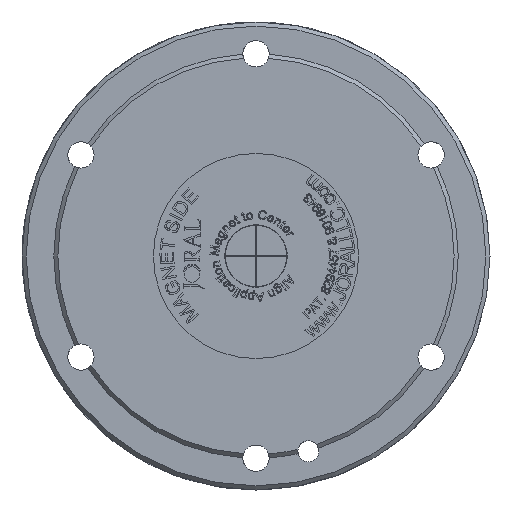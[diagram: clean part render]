
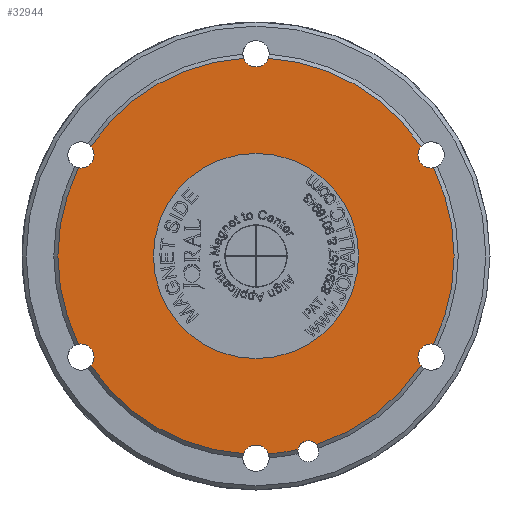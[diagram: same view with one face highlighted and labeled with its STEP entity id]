
A CAD part, left-side view. The second image highlights one B-rep face of the part: STEP entity #32944.
In plain terms, the highlighted planar face has unit normal (-1, 0, 0).
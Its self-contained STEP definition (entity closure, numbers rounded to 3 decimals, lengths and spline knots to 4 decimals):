
#67=FACE_BOUND('',#8718,.T.);
#289=CIRCLE('',#34868,0.051);
#291=CIRCLE('',#34870,0.051);
#293=CIRCLE('',#34874,0.965);
#294=CIRCLE('',#34875,0.064);
#295=CIRCLE('',#34876,0.965);
#296=CIRCLE('',#34877,0.064);
#297=CIRCLE('',#34878,0.965);
#298=CIRCLE('',#34879,0.064);
#299=CIRCLE('',#34880,0.965);
#300=CIRCLE('',#34881,0.064);
#301=CIRCLE('',#34882,0.064);
#302=CIRCLE('',#34883,0.965);
#303=CIRCLE('',#34884,0.064);
#304=CIRCLE('',#34885,0.064);
#305=CIRCLE('',#34886,0.965);
#306=CIRCLE('',#34887,0.064);
#307=CIRCLE('',#34888,0.965);
#308=CIRCLE('',#34889,0.5);
#6023=PLANE('',#34873);
#6832=FACE_OUTER_BOUND('',#8717,.T.);
#8717=EDGE_LOOP('',(#22084,#22085,#22086,#22087,#22088,#22089,#22090,#22091,
#22092,#22093,#22094,#22095,#22096,#22097,#22098,#22099,#22100));
#8718=EDGE_LOOP('',(#22101));
#13082=VERTEX_POINT('',#43068);
#13083=VERTEX_POINT('',#43070);
#13088=VERTEX_POINT('',#43086);
#13090=VERTEX_POINT('',#43099);
#13091=VERTEX_POINT('',#43101);
#13092=VERTEX_POINT('',#43103);
#13093=VERTEX_POINT('',#43105);
#13094=VERTEX_POINT('',#43107);
#13095=VERTEX_POINT('',#43109);
#13096=VERTEX_POINT('',#43111);
#13097=VERTEX_POINT('',#43113);
#13098=VERTEX_POINT('',#43115);
#13099=VERTEX_POINT('',#43117);
#13100=VERTEX_POINT('',#43119);
#13101=VERTEX_POINT('',#43121);
#13102=VERTEX_POINT('',#43123);
#13103=VERTEX_POINT('',#43125);
#13104=VERTEX_POINT('',#43128);
#16633=EDGE_CURVE('',#13083,#13082,#289,.T.);
#16639=EDGE_CURVE('',#13082,#13088,#291,.T.);
#16642=EDGE_CURVE('',#13090,#13088,#293,.T.);
#16643=EDGE_CURVE('',#13090,#13091,#294,.T.);
#16644=EDGE_CURVE('',#13092,#13091,#295,.T.);
#16645=EDGE_CURVE('',#13092,#13093,#296,.T.);
#16646=EDGE_CURVE('',#13094,#13093,#297,.T.);
#16647=EDGE_CURVE('',#13094,#13095,#298,.T.);
#16648=EDGE_CURVE('',#13096,#13095,#299,.T.);
#16649=EDGE_CURVE('',#13096,#13097,#300,.T.);
#16650=EDGE_CURVE('',#13097,#13098,#301,.T.);
#16651=EDGE_CURVE('',#13099,#13098,#302,.T.);
#16652=EDGE_CURVE('',#13099,#13100,#303,.T.);
#16653=EDGE_CURVE('',#13100,#13101,#304,.T.);
#16654=EDGE_CURVE('',#13102,#13101,#305,.T.);
#16655=EDGE_CURVE('',#13102,#13103,#306,.T.);
#16656=EDGE_CURVE('',#13083,#13103,#307,.T.);
#16657=EDGE_CURVE('',#13104,#13104,#308,.T.);
#22084=ORIENTED_EDGE('',*,*,#16633,.T.);
#22085=ORIENTED_EDGE('',*,*,#16639,.T.);
#22086=ORIENTED_EDGE('',*,*,#16642,.F.);
#22087=ORIENTED_EDGE('',*,*,#16643,.T.);
#22088=ORIENTED_EDGE('',*,*,#16644,.F.);
#22089=ORIENTED_EDGE('',*,*,#16645,.T.);
#22090=ORIENTED_EDGE('',*,*,#16646,.F.);
#22091=ORIENTED_EDGE('',*,*,#16647,.T.);
#22092=ORIENTED_EDGE('',*,*,#16648,.F.);
#22093=ORIENTED_EDGE('',*,*,#16649,.T.);
#22094=ORIENTED_EDGE('',*,*,#16650,.T.);
#22095=ORIENTED_EDGE('',*,*,#16651,.F.);
#22096=ORIENTED_EDGE('',*,*,#16652,.T.);
#22097=ORIENTED_EDGE('',*,*,#16653,.T.);
#22098=ORIENTED_EDGE('',*,*,#16654,.F.);
#22099=ORIENTED_EDGE('',*,*,#16655,.T.);
#22100=ORIENTED_EDGE('',*,*,#16656,.F.);
#22101=ORIENTED_EDGE('',*,*,#16657,.F.);
#32944=ADVANCED_FACE('',(#6832,#67),#6023,.T.);
#34868=AXIS2_PLACEMENT_3D('',#43071,#36200,#36201);
#34870=AXIS2_PLACEMENT_3D('',#43093,#36206,#36207);
#34873=AXIS2_PLACEMENT_3D('',#43098,#36213,#36214);
#34874=AXIS2_PLACEMENT_3D('',#43100,#36215,#36216);
#34875=AXIS2_PLACEMENT_3D('',#43102,#36217,#36218);
#34876=AXIS2_PLACEMENT_3D('',#43104,#36219,#36220);
#34877=AXIS2_PLACEMENT_3D('',#43106,#36221,#36222);
#34878=AXIS2_PLACEMENT_3D('',#43108,#36223,#36224);
#34879=AXIS2_PLACEMENT_3D('',#43110,#36225,#36226);
#34880=AXIS2_PLACEMENT_3D('',#43112,#36227,#36228);
#34881=AXIS2_PLACEMENT_3D('',#43114,#36229,#36230);
#34882=AXIS2_PLACEMENT_3D('',#43116,#36231,#36232);
#34883=AXIS2_PLACEMENT_3D('',#43118,#36233,#36234);
#34884=AXIS2_PLACEMENT_3D('',#43120,#36235,#36236);
#34885=AXIS2_PLACEMENT_3D('',#43122,#36237,#36238);
#34886=AXIS2_PLACEMENT_3D('',#43124,#36239,#36240);
#34887=AXIS2_PLACEMENT_3D('',#43126,#36241,#36242);
#34888=AXIS2_PLACEMENT_3D('',#43127,#36243,#36244);
#34889=AXIS2_PLACEMENT_3D('',#43129,#36245,#36246);
#36200=DIRECTION('center_axis',(1.,0.,0.));
#36201=DIRECTION('ref_axis',(0.,0.,-1.));
#36206=DIRECTION('center_axis',(1.,0.,0.));
#36207=DIRECTION('ref_axis',(0.,0.,-1.));
#36213=DIRECTION('center_axis',(-1.,0.,0.));
#36214=DIRECTION('ref_axis',(0.,0.,1.));
#36215=DIRECTION('center_axis',(1.,0.,0.));
#36216=DIRECTION('ref_axis',(0.,-1.,0.));
#36217=DIRECTION('center_axis',(1.,0.,0.));
#36218=DIRECTION('ref_axis',(0.,1.,0.));
#36219=DIRECTION('center_axis',(1.,0.,0.));
#36220=DIRECTION('ref_axis',(0.,-1.,0.));
#36221=DIRECTION('center_axis',(1.,0.,0.));
#36222=DIRECTION('ref_axis',(0.,1.,0.));
#36223=DIRECTION('center_axis',(1.,0.,0.));
#36224=DIRECTION('ref_axis',(0.,-1.,0.));
#36225=DIRECTION('center_axis',(1.,0.,0.));
#36226=DIRECTION('ref_axis',(0.,1.,0.));
#36227=DIRECTION('center_axis',(1.,0.,0.));
#36228=DIRECTION('ref_axis',(0.,-1.,0.));
#36229=DIRECTION('center_axis',(1.,0.,0.));
#36230=DIRECTION('ref_axis',(0.,1.,0.));
#36231=DIRECTION('center_axis',(1.,0.,0.));
#36232=DIRECTION('ref_axis',(0.,1.,0.));
#36233=DIRECTION('center_axis',(1.,0.,0.));
#36234=DIRECTION('ref_axis',(0.,-1.,0.));
#36235=DIRECTION('center_axis',(1.,0.,0.));
#36236=DIRECTION('ref_axis',(0.,1.,0.));
#36237=DIRECTION('center_axis',(1.,0.,0.));
#36238=DIRECTION('ref_axis',(0.,1.,0.));
#36239=DIRECTION('center_axis',(1.,0.,0.));
#36240=DIRECTION('ref_axis',(0.,-1.,0.));
#36241=DIRECTION('center_axis',(1.,0.,0.));
#36242=DIRECTION('ref_axis',(0.,1.,0.));
#36243=DIRECTION('center_axis',(1.,0.,0.));
#36244=DIRECTION('ref_axis',(0.,-1.,0.));
#36245=DIRECTION('center_axis',(-1.,0.,0.));
#36246=DIRECTION('ref_axis',(0.,0.,
1.));
#43068=CARTESIAN_POINT('',(0.,-0.2549,-0.9004));
#43070=CARTESIAN_POINT('',(0.,-0.2046,-0.9431));
#43071=CARTESIAN_POINT('Origin',(0.,-0.2549,-0.9514));
#43086=CARTESIAN_POINT('',(0.,-0.2943,-0.919));
#43093=CARTESIAN_POINT('Origin',(0.,-0.2549,-0.9514));
#43098=CARTESIAN_POINT('Origin',(0.,0.985,0.));
#43099=CARTESIAN_POINT('',(0.,-0.804,-0.5336));
#43100=CARTESIAN_POINT('Origin',(0.,0.,0.));
#43101=CARTESIAN_POINT('',(0.,-0.8642,-0.4295));
#43102=CARTESIAN_POINT('Origin',(0.,-0.853,-0.4925));
#43103=CARTESIAN_POINT('',(0.,-0.8642,0.4295));
#43104=CARTESIAN_POINT('Origin',(0.,0.,0.));
#43105=CARTESIAN_POINT('',(0.,-0.804,0.5336));
#43106=CARTESIAN_POINT('Origin',(0.,-0.853,0.4925));
#43107=CARTESIAN_POINT('',(0.,-0.0601,0.9631));
#43108=CARTESIAN_POINT('Origin',(0.,0.,0.));
#43109=CARTESIAN_POINT('',(0.,0.0601,0.9631));
#43110=CARTESIAN_POINT('Origin',(0.,0.,0.985));
#43111=CARTESIAN_POINT('',(0.,0.804,0.5336));
#43112=CARTESIAN_POINT('Origin',(0.,0.,0.));
#43113=CARTESIAN_POINT('',(0.,0.789,0.4925));
#43114=CARTESIAN_POINT('Origin',(0.,0.853,0.4925));
#43115=CARTESIAN_POINT('',(0.,0.8642,0.4295));
#43116=CARTESIAN_POINT('Origin',(0.,0.853,0.4925));
#43117=CARTESIAN_POINT('',(0.,0.8642,-0.4295));
#43118=CARTESIAN_POINT('Origin',(0.,0.,0.));
#43119=CARTESIAN_POINT('',(0.,0.789,-0.4925));
#43120=CARTESIAN_POINT('Origin',(0.,0.853,-0.4925));
#43121=CARTESIAN_POINT('',(0.,0.804,-0.5336));
#43122=CARTESIAN_POINT('Origin',(0.,0.853,-0.4925));
#43123=CARTESIAN_POINT('',(0.,0.0601,-0.9631));
#43124=CARTESIAN_POINT('Origin',(0.,0.,0.));
#43125=CARTESIAN_POINT('',(0.,-0.0601,-0.9631));
#43126=CARTESIAN_POINT('Origin',(0.,0.,-0.985));
#43127=CARTESIAN_POINT('Origin',(0.,0.,0.));
#43128=CARTESIAN_POINT('',(0.,0.,-0.5));
#43129=CARTESIAN_POINT('Origin',(0.,0.,0.));
